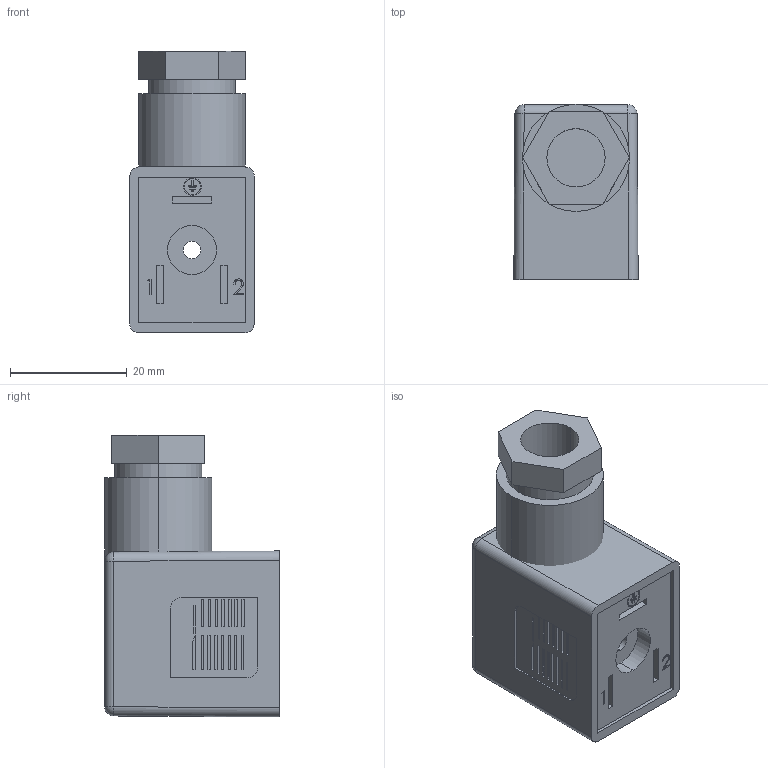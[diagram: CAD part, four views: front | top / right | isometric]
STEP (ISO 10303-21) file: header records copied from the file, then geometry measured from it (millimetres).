
FILE_DESCRIPTION (( 'STEP AP214' ), '1' );
FILE_NAME ('VDN-029-00.STEP', '2016-08-19T20:31:37', ( '' ), ( '' ), 'SwSTEP 2.0', 'SolidWorks 2015', '' );
FILE_SCHEMA (( 'AUTOMOTIVE_DESIGN' ));
Length unit declared in the file: inch
Products named in the file (1): VDN-029-00
Bounding box: 21.34 x 30 x 48.4 mm (x, y, z)
Volume: 19153.6 mm3; surface area: 7732.3 mm2
Topology: 2 solids, 2 shells, 294 faces, 708 edges, 464 vertices
Faces by surface type: plane 250, cylinder 28, bspline 10, sphere 4, torus 2
Entity records: 12639 total; most frequent: CARTESIAN_POINT 1909, ORIENTED_EDGE 1408, DIRECTION 1320, EDGE_CURVE 704, VECTOR 626, LINE 626, VERTEX_POINT 464, EDGE_LOOP 348
